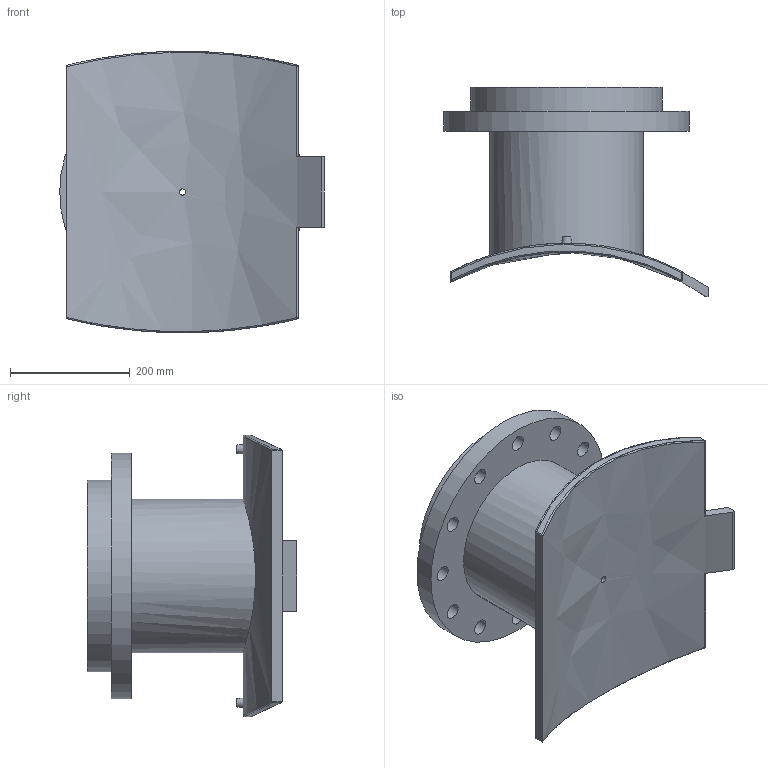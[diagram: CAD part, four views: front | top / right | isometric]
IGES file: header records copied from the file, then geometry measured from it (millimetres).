
Global section: file name: 495903800250T; native system: Autodesk Inventor 2019; preprocessor: unknown; author: KIM; date: 20240403.210401; units: millimetre
Bounding box: 441.5 x 348.98 x 469.93 mm (x, y, z)
Volume: 11500243 mm3; surface area: 1014207.5 mm2
Topology: 1 solids, 1 shells, 62 faces, 163 edges, 126 vertices
Faces by surface type: bspline 62
